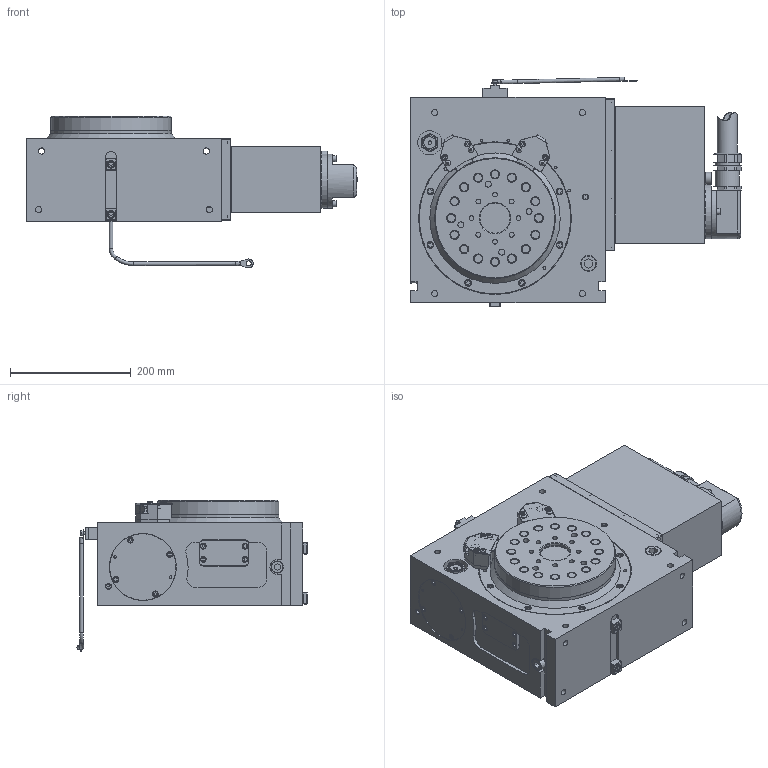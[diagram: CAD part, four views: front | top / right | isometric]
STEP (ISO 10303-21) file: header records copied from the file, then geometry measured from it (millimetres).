
FILE_DESCRIPTION (( 'STEP AP203' ), '1' );
FILE_NAME ('15091508　MDHW201R-07.STEP', '2021-10-07T00:53:01', ( '' ), ( '' ), 'SwSTEP 2.0', 'SolidWorks 2021', '' );
FILE_SCHEMA (( 'CONFIG_CONTROL_DESIGN' ));
Length unit declared in the file: millimetre
Products named in the file (1): 15091508　MDHW201R-07
Bounding box: 548.49 x 381.26 x 251.79 mm (x, y, z)
Surface area: 750718.6 mm2 (no closed solid volume)
Topology: 0 solids, 187 shells, 976 faces, 4250 edges, 3424 vertices
Faces by surface type: plane 688, cylinder 178, cone 78, torus 25, bspline 7
Full cylindrical faces by diameter (mm): 2.5 x2, 4 x1, 4.2 x9, 4.3 x4, 4.5 x1, 5 x3, 6 x3, 7.1 x2, 8 x8, 8.4 x1, 8.5 x1, 8.72 x5, 9 x5, 9.5 x30, 10 x20, 10.2 x8, 11 x8, 14 x5, 20 x2, 23 x1, 26.4 x1, 33.4 x1, 40 x3, 50 x1, 50.5 x1, 90 x2, 111 x1, 200 x2, 213 x1, 214 x1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
Entity records: 47771 total; most frequent: CARTESIAN_POINT 15645, DIRECTION 5854, ORIENTED_EDGE 5412, EDGE_CURVE 3982, VERTEX_POINT 3394, VECTOR 2600, LINE 2600, AXIS2_PLACEMENT_3D 1627
